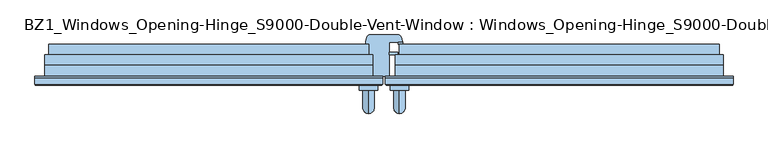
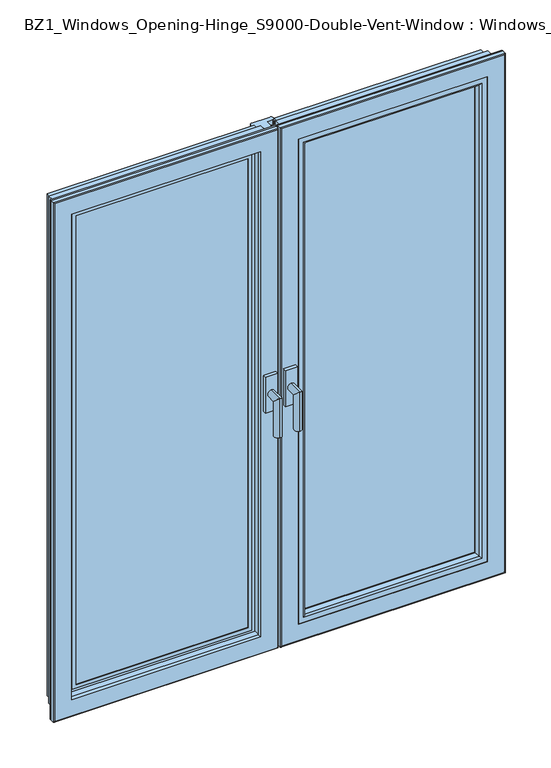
"""IFC4 building model written with IfcOpenShell, lengths in millimetres: window geometry, BZ1_Windows_Opening-Hinge_S9000-Double-Vent-Window : Windows_Opening-Hinge_S9000-Double-Vent-Window."""

from ifc_helpers import new_model, si_unit, point, frame, frame_2d, origin, place, context, project, spatial, polyline, circle_curve, ellipse_curve, trimmed, segment, composite_curve, outline, extrude, source, transform, mapped, element, save
from ifc_brep_helpers import plane_surface, cylinder_surface, advanced_brep


def bz1_windows_opening_hinge_s9000_double_vent_window_windows_b4b88814(model_context):
    return source(origin(), model_context, "Body", "SolidModel", [
        advanced_brep(
        [(31.0, -61.0, 1781.5), (31.0, -61.0, 1758.5), (31.0, -107.5, 1781.5), (31.0, -84.5, 1758.5), (31.0, -107.5, 1653.0), (31.0, -84.5, 1653.0)],
        [
            (0, 1, circle_curve(frame((31.0, -61.0, 1770.0), z_axis=(0.0, 1.0, 0.0), x_axis=(0.0, 0.0, -1.0)), 11.5)),
            (1, 0, circle_curve(frame((31.0, -61.0, 1770.0), z_axis=(0.0, 1.0, 0.0), x_axis=(0.0, 0.0, -1.0)), 11.5)),
            (0, 2),
            (2, 3, ellipse_curve(frame((31.0, -96.0, 1770.0), z_axis=(0.0, 0.7071067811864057, 0.7071067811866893), x_axis=(0.0, 0.7071067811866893, -0.7071067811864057)), 16.263456, 11.5)),
            (3, 1),
            (3, 2, ellipse_curve(frame((31.0, -96.0, 1770.0), z_axis=(0.0, 0.7071067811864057, 0.7071067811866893), x_axis=(0.0, 0.7071067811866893, -0.7071067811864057)), 16.263456, 11.5)),
            (4, 5, circle_curve(frame((31.0, -96.0, 1653.0), z_axis=(0.0, 0.0, -1.0), x_axis=(0.0, 1.0, 0.0)), 11.5)),
            (5, 4, circle_curve(frame((31.0, -96.0, 1653.0), z_axis=(0.0, 0.0, -1.0), x_axis=(0.0, 1.0, 0.0)), 11.5)),
            (2, 4),
            (5, 3),
        ],
        [
            plane_surface(frame((31.0, -61.0, 1770.0), z_axis=(0.0, 1.0, 0.0), x_axis=(1.0, 0.0, 0.0))),
            cylinder_surface(frame((31.0, -61.0, 1770.0), z_axis=(0.0, 1.0, 0.0), x_axis=(0.0, 0.0, -1.0)), 11.5),
            plane_surface(frame((31.0, -96.0, 1653.0), z_axis=(0.0, 0.0, -1.0), x_axis=(1.0, 0.0, 0.0))),
            cylinder_surface(frame((31.0, -96.0, 1770.0), z_axis=(0.0, 0.0, 1.0), x_axis=(0.0, 1.0, 0.0)), 11.5),
        ],
        [
            (0, [[1, 2]]),
            (1, [[-1, 3, 4, 5]]),
            (1, [[-2, -5, 6, -3]]),
            (2, [[7, 8]]),
            (3, [[-4, 9, -8, 10]]),
            (3, [[-6, -10, -7, -9]]),
        ],
    ),
        extrude(outline(polyline([(49.5, -51.0), (49.5, -61.0), (12.5, -61.0), (12.5, -51.0), (49.5, -51.0)])), frame((0.0, 0.0, 1711.0), z_axis=(0.0, 0.0, 1.0), x_axis=(1.0, 0.0, 0.0)), (0.0, 0.0, 1.0), 118.0),
        advanced_brep(
        [(-31.0, -61.0, 1781.5), (-31.0, -61.0, 1758.5), (-31.0, -107.5, 1781.5), (-31.0, -84.5, 1758.5), (-31.0, -107.5, 1653.0), (-31.0, -84.5, 1653.0)],
        [
            (0, 1, circle_curve(frame((-31.0, -61.0, 1770.0), z_axis=(0.0, 1.0, 0.0), x_axis=(0.0, 0.0, -1.0)), 11.5)),
            (1, 0, circle_curve(frame((-31.0, -61.0, 1770.0), z_axis=(0.0, 1.0, 0.0), x_axis=(0.0, 0.0, -1.0)), 11.5)),
            (0, 2),
            (2, 3, ellipse_curve(frame((-31.0, -96.0, 1770.0), z_axis=(0.0, 0.7071067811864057, 0.7071067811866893), x_axis=(0.0, 0.7071067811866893, -0.7071067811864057)), 16.263456, 11.5)),
            (3, 1),
            (3, 2, ellipse_curve(frame((-31.0, -96.0, 1770.0), z_axis=(0.0, 0.7071067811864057, 0.7071067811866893), x_axis=(0.0, 0.7071067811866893, -0.7071067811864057)), 16.263456, 11.5)),
            (4, 5, circle_curve(frame((-31.0, -96.0, 1653.0), z_axis=(0.0, 0.0, -1.0), x_axis=(0.0, 1.0, 0.0)), 11.5)),
            (5, 4, circle_curve(frame((-31.0, -96.0, 1653.0), z_axis=(0.0, 0.0, -1.0), x_axis=(0.0, 1.0, 0.0)), 11.5)),
            (2, 4),
            (5, 3),
        ],
        [
            plane_surface(frame((-31.0, -61.0, 1770.0), z_axis=(0.0, 1.0, 0.0), x_axis=(1.0, 0.0, 0.0))),
            cylinder_surface(frame((-31.0, -61.0, 1770.0), z_axis=(0.0, 1.0, 0.0), x_axis=(0.0, 0.0, -1.0)), 11.5),
            plane_surface(frame((-31.0, -96.0, 1653.0), z_axis=(0.0, 0.0, -1.0), x_axis=(1.0, 0.0, 0.0))),
            cylinder_surface(frame((-31.0, -96.0, 1770.0), z_axis=(0.0, 0.0, 1.0), x_axis=(0.0, 1.0, 0.0)), 11.5),
        ],
        [
            (0, [[1, 2]]),
            (1, [[-1, 3, 4, 5]]),
            (1, [[-2, -5, 6, -3]]),
            (2, [[7, 8]]),
            (3, [[-4, 9, -8, 10]]),
            (3, [[-6, -10, -7, -9]]),
        ],
    ),
        extrude(outline(polyline([(-12.5, -51.0), (-12.5, -61.0), (-49.5, -61.0), (-49.5, -51.0), (-12.5, -51.0)])), frame((0.0, 0.0, 1711.0), z_axis=(0.0, 0.0, 1.0), x_axis=(1.0, 0.0, 0.0)), (0.0, 0.0, 1.0), 118.0),
        extrude(outline(polyline([(64.0, 13.5), (639.0, 13.5), (639.0, -26.5), (64.0, -26.5), (64.0, 13.5)])), frame((0.0, 0.0, 980.9999996), z_axis=(0.0, 0.0, 1.0), x_axis=(1.0, 0.0, 0.0)), (0.0, 0.0, 1.0), 1578.0),
        extrude(outline(polyline([(994.7999996, 77.8), (994.7999996, 625.2), (2545.1999996, 625.2), (2545.1999996, 77.8), (994.7999996, 77.8)]), holes=[polyline([(2537.9999996, 85.0), (2537.9999996, 618.0), (1001.9999996, 618.0), (1001.9999996, 85.0), (2537.9999996, 85.0)])]), frame((0.0, 13.5, 0.0), z_axis=(0.0, 1.0, 0.0), x_axis=(0.0, 0.0, 1.0)), (0.0, 0.0, 1.0), 3.0),
        extrude(outline(polyline([(990.4987824, 629.5012172), (2549.5012168, 629.5012172), (2549.5012168, 73.4987828), (990.4987824, 73.4987828), (990.4987824, 629.5012172)]), holes=[polyline([(1001.9987824, 84.9987828), (2538.0012168, 84.9987828), (2538.0012168, 618.0012172), (1001.9987824, 618.0012172), (1001.9987824, 84.9987828)])]), frame((0.0, -29.0, 0.0), z_axis=(0.0, 1.0, 0.0), x_axis=(0.0, 0.0, 1.0)), (0.0, 0.0, 1.0), 2.5),
        extrude(outline(polyline([(919.9999996, 3.0), (919.9999996, 700.0), (2619.9999996, 700.0), (2619.9999996, 3.0), (919.9999996, 3.0)]), holes=[polyline([(2611.9999996, 11.0), (2611.9999996, 692.0), (927.9999996, 692.0), (927.9999996, 11.0), (2611.9999996, 11.0)])]), frame((0.0, -36.0, 0.0), z_axis=(0.0, 1.0, 0.0), x_axis=(0.0, 0.0, 1.0)), (0.0, 0.0, 1.0), 3.5),
        advanced_brep(
        [(76.6543275, 31.5, 2546.3456721), (82.4498824, 27.0529143, 2540.5501171), (82.4498824, 27.0529143, 999.449882), (76.6543275, 31.5, 993.6543271), (31.0, 10.0, 2591.9999996), (31.0, 31.5, 2591.9999996), (31.0, 31.5, 947.9999996), (31.0, 10.0, 947.9999996), (23.0, -10.0, 2599.9999996), (23.0, 10.0, 2599.9999996), (23.0, 10.0, 939.9999996), (23.0, -10.0, 939.9999996), (54.9, 2.4998794, 2568.0999996), (54.9, -10.0, 2568.0999996), (54.9, -10.0, 971.8999996), (54.9, 2.4998794, 971.8999996), (51.9241825, 16.5, 2571.0758171), (51.9241825, 16.5, 968.9241821), (85.0, 17.535746, 2537.9999996), (85.0, 16.5, 2537.9999996), (85.0, 16.5, 1001.9999996), (85.0, 17.535746, 1001.9999996), (620.5501176, 27.0529143, 999.449882), (626.3456725, 31.5, 993.6543271), (672.0, 31.5, 947.9999996), (672.0, 10.0, 947.9999996), (680.0, 10.0, 939.9999996), (680.0, -10.0, 939.9999996), (648.1, -10.0, 971.8999996), (648.1, 2.4998794, 971.8999996), (651.0758175, 16.5, 968.9241821), (618.0, 16.5, 1001.9999996), (618.0, 17.535746, 1001.9999996), (620.5501176, 27.0529143, 2540.5501171), (626.3456725, 31.5, 2546.3456721), (672.0, 31.5, 2591.9999996), (672.0, 10.0, 2591.9999996), (680.0, 10.0, 2599.9999996), (680.0, -10.0, 2599.9999996), (648.1, -10.0, 2568.0999996), (648.1, 2.4998794, 2568.0999996), (651.0758175, 16.5, 2571.0758171), (618.0, 16.5, 2537.9999996), (618.0, 17.535746, 2537.9999996)],
        [
            (0, 1, ellipse_curve(frame((76.6543275, 25.5, 2546.3456721), z_axis=(-0.7071067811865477, 0.0, -0.7071067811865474), x_axis=(-0.7071067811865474, 0.0, 0.7071067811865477)), 8.4852814, 6.0)),
            (1, 2),
            (2, 3, ellipse_curve(frame((76.6543275, 25.5, 993.6543271), z_axis=(-0.7071067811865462, 0.0, 0.707106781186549), x_axis=(0.7071067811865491, 0.0, 0.7071067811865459)), 8.4852814, 6.0)),
            (3, 0),
            (4, 5),
            (5, 6),
            (6, 7),
            (7, 4),
            (8, 9),
            (9, 10),
            (10, 11),
            (11, 8),
            (12, 13),
            (13, 14),
            (14, 15),
            (15, 12),
            (16, 12),
            (15, 17),
            (17, 16),
            (18, 19),
            (19, 20),
            (20, 21),
            (21, 18),
            (1, 18),
            (21, 2),
            (2, 22),
            (22, 23, ellipse_curve(frame((626.3456725, 25.5, 993.6543271), z_axis=(-0.7071067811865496, 0.0, -0.7071067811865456), x_axis=(-0.7071067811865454, 0.0, 0.7071067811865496)), 8.4852814, 6.0)),
            (23, 3),
            (6, 24),
            (24, 25),
            (25, 7),
            (10, 26),
            (26, 27),
            (27, 11),
            (14, 28),
            (28, 29),
            (29, 15),
            (29, 30),
            (30, 17),
            (20, 31),
            (31, 32),
            (32, 21),
            (32, 22),
            (22, 33),
            (33, 34, ellipse_curve(frame((626.3456725, 25.5, 2546.3456721), z_axis=(0.7071067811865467, 0.0, -0.7071067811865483), x_axis=(-0.7071067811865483, 0.0, -0.7071067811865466)), 8.4852814, 6.0)),
            (34, 23),
            (24, 35),
            (35, 36),
            (36, 25),
            (26, 37),
            (37, 38),
            (38, 27),
            (28, 39),
            (39, 40),
            (40, 29),
            (40, 41),
            (41, 30),
            (31, 42),
            (42, 43),
            (43, 32),
            (43, 33),
            (33, 1),
            (0, 34),
            (5, 35),
            (4, 36),
            (9, 37),
            (8, 38),
            (13, 39),
            (12, 40),
            (16, 41),
            (19, 42),
            (18, 43),
        ],
        [
            cylinder_surface(frame((76.6543275, 25.5, 2619.9999996), z_axis=(0.0, 0.0, 1.0), x_axis=(0.0, 1.0, 0.0)), 6.0),
            plane_surface(frame((31.0, 31.5, 2591.9999996), z_axis=(-1.0, 0.0, 0.0), x_axis=(0.0, 0.0, -1.0))),
            plane_surface(frame((23.0, 10.0, 2599.9999996), z_axis=(-1.0, 0.0, 0.0), x_axis=(0.0, 0.0, -1.0))),
            plane_surface(frame((54.9, -10.0, 2568.0999996), z_axis=(1.0, 0.0, 0.0), x_axis=(0.0, 0.0, -1.0))),
            plane_surface(frame((54.9, 2.4998794, 2568.0999996), z_axis=(0.9781476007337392, 0.20791169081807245, 0.0), x_axis=(0.0, 0.0, -1.0))),
            plane_surface(frame((85.0, 16.5, 2537.9999996), z_axis=(1.0, 0.0, 0.0), x_axis=(0.0, 0.0, -1.0))),
            plane_surface(frame((85.0, 17.535746, 2537.9999996), z_axis=(0.9659258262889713, 0.2588190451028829, 0.0), x_axis=(0.0, 0.0, -1.0))),
            cylinder_surface(frame((3.0, 25.5, 993.6543271), z_axis=(-1.0, 0.0, 0.0), x_axis=(0.0, 1.0, 0.0)), 6.0),
            plane_surface(frame((31.0, 31.5, 947.9999996), z_axis=(0.0, 0.0, -1.0), x_axis=(1.0, 0.0, 0.0))),
            plane_surface(frame((23.0, 10.0, 939.9999996), z_axis=(0.0, 0.0, -1.0), x_axis=(1.0, 0.0, 0.0))),
            plane_surface(frame((54.9, -10.0, 971.8999996), z_axis=(0.0, 0.0, 1.0), x_axis=(1.0, 0.0, 0.0))),
            plane_surface(frame((54.9, 2.4998794, 971.8999996), z_axis=(0.0, 0.20791169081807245, 0.9781476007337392), x_axis=(1.0, 0.0, 0.0))),
            plane_surface(frame((85.0, 16.5, 1001.9999996), z_axis=(0.0, 0.0, 1.0), x_axis=(1.0, 0.0, 0.0))),
            plane_surface(frame((85.0, 17.535746, 1001.9999996), z_axis=(0.0, 0.2588190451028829, 0.9659258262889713), x_axis=(1.0, 0.0, 0.0))),
            cylinder_surface(frame((626.3456725, 25.5, 919.9999996), z_axis=(0.0, 0.0, -1.0), x_axis=(0.0, 1.0, 0.0)), 6.0),
            plane_surface(frame((672.0, 31.5, 947.9999996), z_axis=(1.0, 0.0, 0.0), x_axis=(0.0, 0.0, 1.0))),
            plane_surface(frame((680.0, 10.0, 939.9999996), z_axis=(1.0, 0.0, 0.0), x_axis=(0.0, 0.0, 1.0))),
            plane_surface(frame((648.1, -10.0, 971.8999996), z_axis=(-1.0, 0.0, 0.0), x_axis=(0.0, 0.0, 1.0))),
            plane_surface(frame((648.1, 2.4998794, 971.8999996), z_axis=(-0.9781476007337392, 0.20791169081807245, 0.0), x_axis=(0.0, 0.0, 1.0))),
            plane_surface(frame((618.0, 16.5, 1001.9999996), z_axis=(-1.0, 0.0, 0.0), x_axis=(0.0, 0.0, 1.0))),
            plane_surface(frame((618.0, 17.535746, 1001.9999996), z_axis=(-0.9659258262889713, 0.2588190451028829, 0.0), x_axis=(0.0, 0.0, 1.0))),
            cylinder_surface(frame((700.0, 25.5, 2546.3456721), z_axis=(1.0, 0.0, 0.0), x_axis=(0.0, 1.0, 0.0)), 6.0),
            plane_surface(frame((626.3456725, 31.5, 2546.3456721), z_axis=(0.0, 1.0, 0.0), x_axis=(-1.0, 0.0, 0.0))),
            plane_surface(frame((672.0, 31.5, 2591.9999996), z_axis=(0.0, 0.0, 1.0), x_axis=(-1.0, 0.0, 0.0))),
            plane_surface(frame((672.0, 10.0, 2591.9999996), z_axis=(0.0, 1.0, 0.0), x_axis=(-1.0, 0.0, 0.0))),
            plane_surface(frame((680.0, 10.0, 2599.9999996), z_axis=(0.0, 0.0, 1.0), x_axis=(-1.0, 0.0, 0.0))),
            plane_surface(frame((680.0, -10.0, 2599.9999996), z_axis=(0.0, -1.0, 0.0), x_axis=(-1.0, 0.0, 0.0))),
            plane_surface(frame((648.1, -10.0, 2568.0999996), z_axis=(0.0, 0.0, -1.0), x_axis=(-1.0, 0.0, 0.0))),
            plane_surface(frame((648.1, 2.4998794, 2568.0999996), z_axis=(0.0, 0.20791169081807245, -0.9781476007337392), x_axis=(-1.0, 0.0, 0.0))),
            plane_surface(frame((619.0, 16.5, 2538.9999996), z_axis=(0.0, -1.0, 0.0), x_axis=(-1.0, 0.0, 0.0))),
            plane_surface(frame((618.0, 16.5, 2537.9999996), z_axis=(0.0, 0.0, -1.0), x_axis=(-1.0, 0.0, 0.0))),
            plane_surface(frame((618.0, 17.535746, 2537.9999996), z_axis=(0.0, 0.2588190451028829, -0.9659258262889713), x_axis=(-1.0, 0.0, 0.0))),
        ],
        [
            (0, [[1, 2, 3, 4]]),
            (1, [[5, 6, 7, 8]]),
            (2, [[9, 10, 11, 12]]),
            (3, [[13, 14, 15, 16]]),
            (4, [[17, -16, 18, 19]]),
            (5, [[20, 21, 22, 23]]),
            (6, [[24, -23, 25, -2]]),
            (7, [[-3, 26, 27, 28]]),
            (8, [[-7, 29, 30, 31]]),
            (9, [[-11, 32, 33, 34]]),
            (10, [[-15, 35, 36, 37]]),
            (11, [[-18, -37, 38, 39]]),
            (12, [[-22, 40, 41, 42]]),
            (13, [[-25, -42, 43, -26]]),
            (14, [[-27, 44, 45, 46]]),
            (15, [[-30, 47, 48, 49]]),
            (16, [[-33, 50, 51, 52]]),
            (17, [[-36, 53, 54, 55]]),
            (18, [[-38, -55, 56, 57]]),
            (19, [[-41, 58, 59, 60]]),
            (20, [[-43, -60, 61, -44]]),
            (21, [[-45, 62, -1, 63]]),
            (22, [[64, -47, -29, -6], [-28, -46, -63, -4]]),
            (23, [[-48, -64, -5, 65]]),
            (24, [[66, -50, -32, -10], [-31, -49, -65, -8]]),
            (25, [[-51, -66, -9, 67]]),
            (26, [[-34, -52, -67, -12], [68, -53, -35, -14]]),
            (27, [[-54, -68, -13, 69]]),
            (28, [[-56, -69, -17, 70]]),
            (29, [[-39, -57, -70, -19], [71, -58, -40, -21]]),
            (30, [[-59, -71, -20, 72]]),
            (31, [[-61, -72, -24, -62]]),
        ],
    ),
        advanced_brep(
        [(59.0, -39.75, 2563.9999996), (59.0, -51.0, 2563.9999996), (59.0, -51.0, 975.9999996), (59.0, -39.75, 975.9999996), (54.9, -10.0, 2568.0999996), (54.9, -39.75, 2568.0999996), (54.9, -39.75, 971.8999996), (54.9, -10.0, 971.8999996), (23.0, -36.0, 2599.9999996), (23.0, -10.0, 2599.9999996), (23.0, -10.0, 939.9999996), (23.0, -36.0, 939.9999996), (3.0, -48.5, 2619.9999996), (3.0, -36.0, 2619.9999996), (3.0, -36.0, 919.9999996), (3.0, -48.5, 919.9999996), (5.5, -51.0, 2617.4999996), (5.5, -51.0, 922.4999996), (644.0, -51.0, 975.9999996), (644.0, -39.75, 975.9999996), (648.1, -39.75, 971.8999996), (648.1, -10.0, 971.8999996), (680.0, -10.0, 939.9999996), (680.0, -36.0, 939.9999996), (700.0, -36.0, 919.9999996), (700.0, -48.5, 919.9999996), (697.5, -51.0, 922.4999996), (644.0, -51.0, 2563.9999996), (644.0, -39.75, 2563.9999996), (648.1, -39.75, 2568.0999996), (648.1, -10.0, 2568.0999996), (680.0, -10.0, 2599.9999996), (680.0, -36.0, 2599.9999996), (700.0, -36.0, 2619.9999996), (700.0, -48.5, 2619.9999996), (697.5, -51.0, 2617.4999996)],
        [
            (0, 1),
            (1, 2),
            (2, 3),
            (3, 0),
            (4, 5),
            (5, 6),
            (6, 7),
            (7, 4),
            (8, 9),
            (9, 10),
            (10, 11),
            (11, 8),
            (12, 13),
            (13, 14),
            (14, 15),
            (15, 12),
            (16, 12, ellipse_curve(frame((5.5, -48.5, 2617.4999996), z_axis=(-0.7071067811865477, 0.0, -0.7071067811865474), x_axis=(-0.7071067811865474, 0.0, 0.7071067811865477)), 3.5355339, 2.5)),
            (15, 17, ellipse_curve(frame((5.5, -48.5, 922.4999996), z_axis=(-0.7071067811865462, 0.0, 0.707106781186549), x_axis=(0.7071067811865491, 0.0, 0.7071067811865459)), 3.5355339, 2.5)),
            (17, 16),
            (2, 18),
            (18, 19),
            (19, 3),
            (6, 20),
            (20, 21),
            (21, 7),
            (10, 22),
            (22, 23),
            (23, 11),
            (14, 24),
            (24, 25),
            (25, 15),
            (25, 26, ellipse_curve(frame((697.5, -48.5, 922.4999996), z_axis=(-0.7071067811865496, 0.0, -0.7071067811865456), x_axis=(-0.7071067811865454, 0.0, 0.7071067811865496)), 3.5355339, 2.5)),
            (26, 17),
            (18, 27),
            (27, 28),
            (28, 19),
            (20, 29),
            (29, 30),
            (30, 21),
            (22, 31),
            (31, 32),
            (32, 23),
            (24, 33),
            (33, 34),
            (34, 25),
            (34, 35, ellipse_curve(frame((697.5, -48.5, 2617.4999996), z_axis=(0.7071067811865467, 0.0, -0.7071067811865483), x_axis=(-0.7071067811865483, 0.0, -0.7071067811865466)), 3.5355339, 2.5)),
            (35, 26),
            (35, 16),
            (1, 27),
            (0, 28),
            (5, 29),
            (4, 30),
            (9, 31),
            (8, 32),
            (13, 33),
            (12, 34),
        ],
        [
            plane_surface(frame((59.0, -51.0, 2563.9999996), z_axis=(1.0, 0.0, 0.0), x_axis=(0.0, 0.0, -1.0))),
            plane_surface(frame((54.9, -39.75, 2568.0999996), z_axis=(1.0, 0.0, 0.0), x_axis=(0.0, 0.0, -1.0))),
            plane_surface(frame((23.0, -10.0, 2599.9999996), z_axis=(-1.0, 0.0, 0.0), x_axis=(0.0, 0.0, -1.0))),
            plane_surface(frame((3.0, -36.0, 2619.9999996), z_axis=(-1.0, 0.0, 0.0), x_axis=(0.0, 0.0, -1.0))),
            cylinder_surface(frame((5.5, -48.5, 2619.9999996), z_axis=(0.0, 0.0, 1.0), x_axis=(0.0, -1.0, 0.0)), 2.5),
            plane_surface(frame((59.0, -51.0, 975.9999996), z_axis=(0.0, 0.0, 1.0), x_axis=(1.0, 0.0, 0.0))),
            plane_surface(frame((54.9, -39.75, 971.8999996), z_axis=(0.0, 0.0, 1.0), x_axis=(1.0, 0.0, 0.0))),
            plane_surface(frame((23.0, -10.0, 939.9999996), z_axis=(0.0, 0.0, -1.0), x_axis=(1.0, 0.0, 0.0))),
            plane_surface(frame((3.0, -36.0, 919.9999996), z_axis=(0.0, 0.0, -1.0), x_axis=(1.0, 0.0, 0.0))),
            cylinder_surface(frame((3.0, -48.5, 922.4999996), z_axis=(-1.0, 0.0, 0.0), x_axis=(0.0, -1.0, 0.0)), 2.5),
            plane_surface(frame((644.0, -51.0, 975.9999996), z_axis=(-1.0, 0.0, 0.0), x_axis=(0.0, 0.0, 1.0))),
            plane_surface(frame((648.1, -39.75, 971.8999996), z_axis=(-1.0, 0.0, 0.0), x_axis=(0.0, 0.0, 1.0))),
            plane_surface(frame((680.0, -10.0, 939.9999996), z_axis=(1.0, 0.0, 0.0), x_axis=(0.0, 0.0, 1.0))),
            plane_surface(frame((700.0, -36.0, 919.9999996), z_axis=(1.0, 0.0, 0.0), x_axis=(0.0, 0.0, 1.0))),
            cylinder_surface(frame((697.5, -48.5, 919.9999996), z_axis=(0.0, 0.0, -1.0), x_axis=(0.0, -1.0, 0.0)), 2.5),
            plane_surface(frame((697.5, -51.0, 2617.4999996), z_axis=(0.0, -1.0, 0.0), x_axis=(-1.0, 0.0, 0.0))),
            plane_surface(frame((644.0, -51.0, 2563.9999996), z_axis=(0.0, 0.0, -1.0), x_axis=(-1.0, 0.0, 0.0))),
            plane_surface(frame((644.0, -39.75, 2563.9999996), z_axis=(0.0, 1.0, 0.0), x_axis=(-1.0, 0.0, 0.0))),
            plane_surface(frame((648.1, -39.75, 2568.0999996), z_axis=(0.0, 0.0, -1.0), x_axis=(-1.0, 0.0, 0.0))),
            plane_surface(frame((648.1, -10.0, 2568.0999996), z_axis=(0.0, 1.0, 0.0), x_axis=(-1.0, 0.0, 0.0))),
            plane_surface(frame((680.0, -10.0, 2599.9999996), z_axis=(0.0, 0.0, 1.0), x_axis=(-1.0, 0.0, 0.0))),
            plane_surface(frame((699.0, -36.0, 2618.9999996), z_axis=(0.0, 1.0, 0.0), x_axis=(-1.0, 0.0, 0.0))),
            plane_surface(frame((700.0, -36.0, 2619.9999996), z_axis=(0.0, 0.0, 1.0), x_axis=(-1.0, 0.0, 0.0))),
            cylinder_surface(frame((700.0, -48.5, 2617.4999996), z_axis=(1.0, 0.0, 0.0), x_axis=(0.0, -1.0, 0.0)), 2.5),
        ],
        [
            (0, [[1, 2, 3, 4]]),
            (1, [[5, 6, 7, 8]]),
            (2, [[9, 10, 11, 12]]),
            (3, [[13, 14, 15, 16]]),
            (4, [[17, -16, 18, 19]]),
            (5, [[-3, 20, 21, 22]]),
            (6, [[-7, 23, 24, 25]]),
            (7, [[-11, 26, 27, 28]]),
            (8, [[-15, 29, 30, 31]]),
            (9, [[-18, -31, 32, 33]]),
            (10, [[-21, 34, 35, 36]]),
            (11, [[-24, 37, 38, 39]]),
            (12, [[-27, 40, 41, 42]]),
            (13, [[-30, 43, 44, 45]]),
            (14, [[-32, -45, 46, 47]]),
            (15, [[-33, -47, 48, -19], [49, -34, -20, -2]]),
            (16, [[-35, -49, -1, 50]]),
            (17, [[51, -37, -23, -6], [-22, -36, -50, -4]]),
            (18, [[-38, -51, -5, 52]]),
            (19, [[53, -40, -26, -10], [-25, -39, -52, -8]]),
            (20, [[-41, -53, -9, 54]]),
            (21, [[55, -43, -29, -14], [-28, -42, -54, -12]]),
            (22, [[-44, -55, -13, 56]]),
            (23, [[-46, -56, -17, -48]]),
        ],
    ),
        advanced_brep(
        [(81.1040168, -45.0529143, 2541.8959828), (75.3084619, -49.5, 2547.6915377), (75.3084619, -49.5, 992.3084614), (81.1040168, -45.0529143, 998.1040164), (84.9987828, -30.5174497, 2538.0012168), (84.9987828, -30.5174497, 1001.9987824), (84.9987828, -29.0, 2538.0012168), (84.9987828, -29.0, 1001.9987824), (71.8567747, -34.0, 2551.1432248), (73.1965207, -29.0, 2549.8034789), (73.1965207, -29.0, 990.1965203), (71.8567747, -34.0, 988.8567743), (59.0, -34.0, 2563.9999996), (59.0, -34.0, 975.9999996), (59.0, -49.5, 975.9999996), (59.0, -49.5, 2563.9999996), (627.6915381, -49.5, 992.3084614), (621.8959832, -45.0529143, 998.1040164), (618.0012172, -30.5174497, 1001.9987824), (618.0012172, -29.0, 1001.9987824), (629.8034793, -29.0, 990.1965203), (631.1432253, -34.0, 988.8567743), (644.0, -34.0, 975.9999996), (644.0, -49.5, 975.9999996), (627.6915381, -49.5, 2547.6915377), (621.8959832, -45.0529143, 2541.8959828), (618.0012172, -30.5174497, 2538.0012168), (618.0012172, -29.0, 2538.0012168), (629.8034793, -29.0, 2549.8034789), (631.1432253, -34.0, 2551.1432248), (644.0, -34.0, 2563.9999996), (644.0, -49.5, 2563.9999996)],
        [
            (0, 1, ellipse_curve(frame((75.3084619, -43.5, 2547.6915377), z_axis=(-0.7071067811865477, 0.0, -0.7071067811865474), x_axis=(-0.7071067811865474, 0.0, 0.7071067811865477)), 8.4852814, 6.0)),
            (1, 2),
            (2, 3, ellipse_curve(frame((75.3084619, -43.5, 992.3084614), z_axis=(-0.7071067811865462, 0.0, 0.707106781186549), x_axis=(0.7071067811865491, 0.0, 0.7071067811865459)), 8.4852814, 6.0)),
            (3, 0),
            (4, 0),
            (3, 5),
            (5, 4),
            (6, 4),
            (5, 7),
            (7, 6),
            (8, 9),
            (9, 10),
            (10, 11),
            (11, 8),
            (12, 13),
            (13, 14),
            (14, 15),
            (15, 12),
            (2, 16),
            (16, 17, ellipse_curve(frame((627.6915381, -43.5, 992.3084614), z_axis=(-0.7071067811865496, 0.0, -0.7071067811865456), x_axis=(-0.7071067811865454, 0.0, 0.7071067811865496)), 8.4852814, 6.0)),
            (17, 3),
            (17, 18),
            (18, 5),
            (18, 19),
            (19, 7),
            (10, 20),
            (20, 21),
            (21, 11),
            (13, 22),
            (22, 23),
            (23, 14),
            (16, 24),
            (24, 25, ellipse_curve(frame((627.6915381, -43.5, 2547.6915377), z_axis=(0.7071067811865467, 0.0, -0.7071067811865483), x_axis=(-0.7071067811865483, 0.0, -0.7071067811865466)), 8.4852814, 6.0)),
            (25, 17),
            (25, 26),
            (26, 18),
            (26, 27),
            (27, 19),
            (20, 28),
            (28, 29),
            (29, 21),
            (22, 30),
            (30, 31),
            (31, 23),
            (24, 1),
            (0, 25),
            (4, 26),
            (6, 27),
            (9, 28),
            (8, 29),
            (12, 30),
            (15, 31),
        ],
        [
            cylinder_surface(frame((75.3084619, -43.5, 2619.9999996), z_axis=(0.0, 0.0, 1.0), x_axis=(0.9659258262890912, -0.2588190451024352, 0.0)), 6.0),
            plane_surface(frame((81.1040168, -45.0529143, 2541.8959828), z_axis=(0.9659258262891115, -0.25881904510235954, 0.0), x_axis=(0.0, 0.0, -1.0))),
            plane_surface(frame((84.9987828, -30.5174497, 2538.0012168), z_axis=(1.0, 0.0, 0.0), x_axis=(0.0, 0.0, -1.0))),
            plane_surface(frame((73.1965207, -29.0, 2549.8034789), z_axis=(-0.9659258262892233, 0.2588190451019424, 0.0), x_axis=(0.0, 0.0, -1.0))),
            plane_surface(frame((59.0, -48.5, 2563.9999996), z_axis=(-1.0, 0.0, 0.0), x_axis=(0.0, 0.0, -1.0))),
            cylinder_surface(frame((3.0, -43.5, 992.3084614), z_axis=(-1.0, 0.0, 0.0), x_axis=(0.0, -0.2588190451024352, 0.9659258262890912)), 6.0),
            plane_surface(frame((81.1040168, -45.0529143, 998.1040164), z_axis=(0.0, -0.25881904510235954, 0.9659258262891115), x_axis=(1.0, 0.0, 0.0))),
            plane_surface(frame((84.9987828, -30.5174497, 1001.9987824), z_axis=(0.0, 0.0, 1.0), x_axis=(1.0, 0.0, 0.0))),
            plane_surface(frame((73.1965207, -29.0, 990.1965203), z_axis=(0.0, 0.2588190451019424, -0.9659258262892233), x_axis=(1.0, 0.0, 0.0))),
            plane_surface(frame((59.0, -48.5, 975.9999996), z_axis=(0.0, 0.0, -1.0), x_axis=(1.0, 0.0, 0.0))),
            cylinder_surface(frame((627.6915381, -43.5, 919.9999996), z_axis=(0.0, 0.0, -1.0), x_axis=(-0.9659258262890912, -0.2588190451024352, 0.0)), 6.0),
            plane_surface(frame((621.8959832, -45.0529143, 998.1040164), z_axis=(-0.9659258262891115, -0.25881904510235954, 0.0), x_axis=(0.0, 0.0, 1.0))),
            plane_surface(frame((618.0012172, -30.5174497, 1001.9987824), z_axis=(-1.0, 0.0, 0.0), x_axis=(0.0, 0.0, 1.0))),
            plane_surface(frame((629.8034793, -29.0, 990.1965203), z_axis=(0.9659258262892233, 0.2588190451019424, 0.0), x_axis=(0.0, 0.0, 1.0))),
            plane_surface(frame((644.0, -48.5, 975.9999996), z_axis=(1.0, 0.0, 0.0), x_axis=(0.0, 0.0, 1.0))),
            cylinder_surface(frame((700.0, -43.5, 2547.6915377), z_axis=(1.0, 0.0, 0.0), x_axis=(0.0, -0.2588190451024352, -0.9659258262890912)), 6.0),
            plane_surface(frame((621.8959832, -45.0529143, 2541.8959828), z_axis=(0.0, -0.25881904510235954, -0.9659258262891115), x_axis=(-1.0, 0.0, 0.0))),
            plane_surface(frame((618.0012172, -30.5174497, 2538.0012168), z_axis=(0.0, 0.0, -1.0), x_axis=(-1.0, 0.0, 0.0))),
            plane_surface(frame((618.0012172, -29.0, 2538.0012168), z_axis=(0.0, 1.0, 0.0), x_axis=(-1.0, 0.0, 0.0))),
            plane_surface(frame((629.8034793, -29.0, 2549.8034789), z_axis=(0.0, 0.2588190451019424, 0.9659258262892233), x_axis=(-1.0, 0.0, 0.0))),
            plane_surface(frame((631.1432253, -34.0, 2551.1432248), z_axis=(0.0, 1.0, 0.0), x_axis=(-1.0, 0.0, 0.0))),
            plane_surface(frame((644.0, -48.5, 2563.9999996), z_axis=(0.0, 0.0, 1.0), x_axis=(-1.0, 0.0, 0.0))),
            plane_surface(frame((644.0, -49.5, 2563.9999996), z_axis=(0.0, -1.0, 0.0), x_axis=(-1.0, 0.0, 0.0))),
        ],
        [
            (0, [[1, 2, 3, 4]]),
            (1, [[5, -4, 6, 7]]),
            (2, [[8, -7, 9, 10]]),
            (3, [[11, 12, 13, 14]]),
            (4, [[15, 16, 17, 18]]),
            (5, [[-3, 19, 20, 21]]),
            (6, [[-6, -21, 22, 23]]),
            (7, [[-9, -23, 24, 25]]),
            (8, [[-13, 26, 27, 28]]),
            (9, [[-16, 29, 30, 31]]),
            (10, [[-20, 32, 33, 34]]),
            (11, [[-22, -34, 35, 36]]),
            (12, [[-24, -36, 37, 38]]),
            (13, [[-27, 39, 40, 41]]),
            (14, [[-30, 42, 43, 44]]),
            (15, [[-33, 45, -1, 46]]),
            (16, [[-35, -46, -5, 47]]),
            (17, [[-37, -47, -8, 48]]),
            (18, [[49, -39, -26, -12], [-25, -38, -48, -10]]),
            (19, [[-40, -49, -11, 50]]),
            (20, [[51, -42, -29, -15], [-28, -41, -50, -14]]),
            (21, [[-43, -51, -18, 52]]),
            (22, [[-31, -44, -52, -17], [-45, -32, -19, -2]]),
        ],
    ),
        extrude(outline(polyline([(-639.0, 13.5), (-64.0, 13.5), (-64.0, -26.5), (-639.0, -26.5), (-639.0, 13.5)])), frame((0.0, 0.0, 980.9999996), z_axis=(0.0, 0.0, 1.0), x_axis=(1.0, 0.0, 0.0)), (0.0, 0.0, 1.0), 1578.0),
        extrude(outline(polyline([(28.0, 15.1), (28.0, 10.0), (11.0, 10.0), (11.0, 15.1), (28.0, 15.1)])), frame((0.0, 0.0, 953.9999996), z_axis=(0.0, 0.0, 1.0), x_axis=(1.0, 0.0, 0.0)), (0.0, 0.0, 1.0), 1632.0),
        extrude(outline(polyline([(28.4784086, 31.5), (28.4784086, 35.0), (37.2784086, 35.0), (37.2784086, 31.5), (28.4784086, 31.5)])), frame((0.0, 0.0, 953.9999996), z_axis=(0.0, 0.0, 1.0), x_axis=(1.0, 0.0, 0.0)), (0.0, 0.0, 1.0), 1632.0),
        extrude(outline(polyline([(994.7999996, -77.8), (2545.1999996, -77.8), (2545.1999996, -625.2), (994.7999996, -625.2), (994.7999996, -77.8)]), holes=[polyline([(1001.9999996, -618.0), (2537.9999996, -618.0), (2537.9999996, -85.0), (1001.9999996, -85.0), (1001.9999996, -618.0)])]), frame((0.0, 13.5, 0.0), z_axis=(0.0, 1.0, 0.0), x_axis=(0.0, 0.0, 1.0)), (0.0, 0.0, 1.0), 3.0),
        extrude(outline(polyline([(919.9999996, -700.0), (919.9999996, -3.0), (2619.9999996, -3.0), (2619.9999996, -700.0), (919.9999996, -700.0)]), holes=[polyline([(2611.9999996, -692.0), (2611.9999996, -11.0), (927.9999996, -11.0), (927.9999996, -692.0), (2611.9999996, -692.0)])]), frame((0.0, -36.0, 0.0), z_axis=(0.0, 1.0, 0.0), x_axis=(0.0, 0.0, 1.0)), (0.0, 0.0, 1.0), 3.5),
        extrude(outline(polyline([(990.4987824, -73.4987828), (2549.5012168, -73.4987828), (2549.5012168, -629.5012172), (990.4987824, -629.5012172), (990.4987824, -73.4987828)]), holes=[polyline([(1001.9987824, -618.0012172), (2538.0012168, -618.0012172), (2538.0012168, -84.9987828), (1001.9987824, -84.9987828), (1001.9987824, -618.0012172)])]), frame((0.0, -29.0, 0.0), z_axis=(0.0, 1.0, 0.0), x_axis=(0.0, 0.0, 1.0)), (0.0, 0.0, 1.0), 2.5),
        extrude(outline(composite_curve([segment(polyline([(-23.0, -32.5), (-23.0, 10.0), (-31.0, 10.0), (-31.0, 31.3910807), (-37.0, 31.3910807), (-37.0, 35.9208678), (-34.436739, 45.5529143)]), True, "CONTINUOUS"), segment(trimmed(circle_curve(frame_2d((-28.6514149, 44.0133354)), 5.9866751), [point((-34.436739, 45.5529143))], [point((-28.6402381, 50.0))], False, "CARTESIAN"), True, "CONTINUOUS"), segment(polyline([(-28.6402381, 50.0), (28.6552087, 50.0)]), True, "CONTINUOUS"), segment(trimmed(circle_curve(frame_2d((28.6552087, 44.0)), 6.0), [point((28.6552087, 50.0))], [point((34.4507637, 45.5529143))], False, "CARTESIAN"), True, "CONTINUOUS"), segment(polyline([(34.4507637, 45.5529143), (37.2784086, 35.0), (11.0, 35.0), (11.0, -32.5), (-23.0, -32.5)]), True, "CONTINUOUS")], self_intersect=False)), frame((0.0, 0.0, 953.9999996), z_axis=(0.0, 0.0, 1.0), x_axis=(1.0, 0.0, 0.0)), (0.0, 0.0, 1.0), 1632.0),
        advanced_brep(
        [(-626.3456725, 31.5, 2546.3456721), (-620.5501176, 27.0529143, 2540.5501171), (-620.5501176, 27.0529143, 999.449882), (-626.3456725, 31.5, 993.6543271), (-672.0, 10.0, 2591.9999996), (-672.0, 31.5, 2591.9999996), (-672.0, 31.5, 947.9999996), (-672.0, 10.0, 947.9999996), (-680.0, -10.0, 2599.9999996), (-680.0, 10.0, 2599.9999996), (-680.0, 10.0, 939.9999996), (-680.0, -10.0, 939.9999996), (-648.1, 2.4998794, 2568.0999996), (-648.1, -10.0, 2568.0999996), (-648.1, -10.0, 971.8999996), (-648.1, 2.4998794, 971.8999996), (-651.0758175, 16.5, 2571.0758171), (-651.0758175, 16.5, 968.9241821), (-618.0, 17.535746, 2537.9999996), (-618.0, 16.5, 2537.9999996), (-618.0, 16.5, 1001.9999996), (-618.0, 17.535746, 1001.9999996), (-82.4498824, 27.0529143, 999.449882), (-76.6543275, 31.5, 993.6543271), (-31.0, 31.5, 947.9999996), (-31.0, 10.0, 947.9999996), (-23.0, 10.0, 939.9999996), (-23.0, -10.0, 939.9999996), (-54.9, -10.0, 971.8999996), (-54.9, 2.4998794, 971.8999996), (-51.9241825, 16.5, 968.9241821), (-85.0, 16.5, 1001.9999996), (-85.0, 17.535746, 1001.9999996), (-82.4498824, 27.0529143, 2540.5501171), (-76.6543275, 31.5, 2546.3456721), (-31.0, 31.5, 2591.9999996), (-31.0, 10.0, 2591.9999996), (-23.0, 10.0, 2599.9999996), (-23.0, -10.0, 2599.9999996), (-54.9, -10.0, 2568.0999996), (-54.9, 2.4998794, 2568.0999996), (-51.9241825, 16.5, 2571.0758171), (-85.0, 16.5, 2537.9999996), (-85.0, 17.535746, 2537.9999996)],
        [
            (0, 1, ellipse_curve(frame((-626.3456725, 25.5, 2546.3456721), z_axis=(-0.707106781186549, 0.0, -0.7071067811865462), x_axis=(-0.7071067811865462, 0.0, 0.7071067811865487)), 8.4852814, 6.0)),
            (1, 2),
            (2, 3, ellipse_curve(frame((-626.3456725, 25.5, 993.6543271), z_axis=(-0.7071067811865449, 0.0, 0.70710678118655), x_axis=(0.7071067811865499, 0.0, 0.707106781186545)), 8.4852814, 6.0)),
            (3, 0),
            (4, 5),
            (5, 6),
            (6, 7),
            (7, 4),
            (8, 9),
            (9, 10),
            (10, 11),
            (11, 8),
            (12, 13),
            (13, 14),
            (14, 15),
            (15, 12),
            (16, 12),
            (15, 17),
            (17, 16),
            (18, 19),
            (19, 20),
            (20, 21),
            (21, 18),
            (1, 18),
            (21, 2),
            (2, 22),
            (22, 23, ellipse_curve(frame((-76.6543275, 25.5, 993.6543271), z_axis=(-0.7071067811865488, 0.0, -0.7071067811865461), x_axis=(-0.7071067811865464, 0.0, 0.7071067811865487)), 8.4852814, 6.0)),
            (23, 3),
            (6, 24),
            (24, 25),
            (25, 7),
            (10, 26),
            (26, 27),
            (27, 11),
            (14, 28),
            (28, 29),
            (29, 15),
            (29, 30),
            (30, 17),
            (20, 31),
            (31, 32),
            (32, 21),
            (32, 22),
            (22, 33),
            (33, 34, ellipse_curve(frame((-76.6543275, 25.5, 2546.3456721), z_axis=(0.7071067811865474, 0.0, -0.7071067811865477), x_axis=(-0.7071067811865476, 0.0, -0.7071067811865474)), 8.4852814, 6.0)),
            (34, 23),
            (24, 35),
            (35, 36),
            (36, 25),
            (26, 37),
            (37, 38),
            (38, 27),
            (28, 39),
            (39, 40),
            (40, 29),
            (40, 41),
            (41, 30),
            (31, 42),
            (42, 43),
            (43, 32),
            (43, 33),
            (33, 1),
            (0, 34),
            (5, 35),
            (4, 36),
            (9, 37),
            (8, 38),
            (13, 39),
            (12, 40),
            (16, 41),
            (19, 42),
            (18, 43),
        ],
        [
            cylinder_surface(frame((-626.3456725, 25.5, 2619.9999996), z_axis=(0.0, 0.0, 1.0), x_axis=(0.0, 1.0, 0.0)), 6.0),
            plane_surface(frame((-672.0, 31.5, 2591.9999996), z_axis=(-1.0, 0.0, 0.0), x_axis=(0.0, 0.0, -1.0))),
            plane_surface(frame((-680.0, 10.0, 2599.9999996), z_axis=(-1.0, 0.0, 0.0), x_axis=(0.0, 0.0, -1.0))),
            plane_surface(frame((-648.1, -10.0, 2568.0999996), z_axis=(1.0, 0.0, 0.0), x_axis=(0.0, 0.0, -1.0))),
            plane_surface(frame((-648.1, 2.4998794, 2568.0999996), z_axis=(0.9781476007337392, 0.20791169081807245, 0.0), x_axis=(0.0, 0.0, -1.0))),
            plane_surface(frame((-618.0, 16.5, 2537.9999996), z_axis=(1.0, 0.0, 0.0), x_axis=(0.0, 0.0, -1.0))),
            plane_surface(frame((-618.0, 17.535746, 2537.9999996), z_axis=(0.9659258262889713, 0.2588190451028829, 0.0), x_axis=(0.0, 0.0, -1.0))),
            cylinder_surface(frame((-700.0, 25.5, 993.6543271), z_axis=(-1.0, 0.0, 0.0), x_axis=(0.0, 1.0, 0.0)), 6.0),
            plane_surface(frame((-672.0, 31.5, 947.9999996), z_axis=(0.0, 0.0, -1.0), x_axis=(1.0, 0.0, 0.0))),
            plane_surface(frame((-680.0, 10.0, 939.9999996), z_axis=(0.0, 0.0, -1.0), x_axis=(1.0, 0.0, 0.0))),
            plane_surface(frame((-648.1, -10.0, 971.8999996), z_axis=(0.0, 0.0, 1.0), x_axis=(1.0, 0.0, 0.0))),
            plane_surface(frame((-648.1, 2.4998794, 971.8999996), z_axis=(0.0, 0.20791169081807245, 0.9781476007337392), x_axis=(1.0, 0.0, 0.0))),
            plane_surface(frame((-618.0, 16.5, 1001.9999996), z_axis=(0.0, 0.0, 1.0), x_axis=(1.0, 0.0, 0.0))),
            plane_surface(frame((-618.0, 17.535746, 1001.9999996), z_axis=(0.0, 0.2588190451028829, 0.9659258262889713), x_axis=(1.0, 0.0, 0.0))),
            cylinder_surface(frame((-76.6543275, 25.5, 919.9999996), z_axis=(0.0, 0.0, -1.0), x_axis=(0.0, 1.0, 0.0)), 6.0),
            plane_surface(frame((-31.0, 31.5, 947.9999996), z_axis=(1.0, 0.0, 0.0), x_axis=(0.0, 0.0, 1.0))),
            plane_surface(frame((-23.0, 10.0, 939.9999996), z_axis=(1.0, 0.0, 0.0), x_axis=(0.0, 0.0, 1.0))),
            plane_surface(frame((-54.9, -10.0, 971.8999996), z_axis=(-1.0, 0.0, 0.0), x_axis=(0.0, 0.0, 1.0))),
            plane_surface(frame((-54.9, 2.4998794, 971.8999996), z_axis=(-0.9781476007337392, 0.20791169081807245, 0.0), x_axis=(0.0, 0.0, 1.0))),
            plane_surface(frame((-85.0, 16.5, 1001.9999996), z_axis=(-1.0, 0.0, 0.0), x_axis=(0.0, 0.0, 1.0))),
            plane_surface(frame((-85.0, 17.535746, 1001.9999996), z_axis=(-0.9659258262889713, 0.2588190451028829, 0.0), x_axis=(0.0, 0.0, 1.0))),
            cylinder_surface(frame((-3.0, 25.5, 2546.3456721), z_axis=(1.0, 0.0, 0.0), x_axis=(0.0, 1.0, 0.0)), 6.0),
            plane_surface(frame((-76.6543275, 31.5, 2546.3456721), z_axis=(0.0, 1.0, 0.0), x_axis=(-1.0, 0.0, 0.0))),
            plane_surface(frame((-31.0, 31.5, 2591.9999996), z_axis=(0.0, 0.0, 1.0), x_axis=(-1.0, 0.0, 0.0))),
            plane_surface(frame((-31.0, 10.0, 2591.9999996), z_axis=(0.0, 1.0, 0.0), x_axis=(-1.0, 0.0, 0.0))),
            plane_surface(frame((-23.0, 10.0, 2599.9999996), z_axis=(0.0, 0.0, 1.0), x_axis=(-1.0, 0.0, 0.0))),
            plane_surface(frame((-23.0, -10.0, 2599.9999996), z_axis=(0.0, -1.0, 0.0), x_axis=(-1.0, 0.0, 0.0))),
            plane_surface(frame((-54.9, -10.0, 2568.0999996), z_axis=(0.0, 0.0, -1.0), x_axis=(-1.0, 0.0, 0.0))),
            plane_surface(frame((-54.9, 2.4998794, 2568.0999996), z_axis=(0.0, 0.20791169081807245, -0.9781476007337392), x_axis=(-1.0, 0.0, 0.0))),
            plane_surface(frame((-84.0, 16.5, 2538.9999996), z_axis=(0.0, -1.0, 0.0), x_axis=(-1.0, 0.0, 0.0))),
            plane_surface(frame((-85.0, 16.5, 2537.9999996), z_axis=(0.0, 0.0, -1.0), x_axis=(-1.0, 0.0, 0.0))),
            plane_surface(frame((-85.0, 17.535746, 2537.9999996), z_axis=(0.0, 0.2588190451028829, -0.9659258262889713), x_axis=(-1.0, 0.0, 0.0))),
        ],
        [
            (0, [[1, 2, 3, 4]]),
            (1, [[5, 6, 7, 8]]),
            (2, [[9, 10, 11, 12]]),
            (3, [[13, 14, 15, 16]]),
            (4, [[17, -16, 18, 19]]),
            (5, [[20, 21, 22, 23]]),
            (6, [[24, -23, 25, -2]]),
            (7, [[-3, 26, 27, 28]]),
            (8, [[-7, 29, 30, 31]]),
            (9, [[-11, 32, 33, 34]]),
            (10, [[-15, 35, 36, 37]]),
            (11, [[-18, -37, 38, 39]]),
            (12, [[-22, 40, 41, 42]]),
            (13, [[-25, -42, 43, -26]]),
            (14, [[-27, 44, 45, 46]]),
            (15, [[-30, 47, 48, 49]]),
            (16, [[-33, 50, 51, 52]]),
            (17, [[-36, 53, 54, 55]]),
            (18, [[-38, -55, 56, 57]]),
            (19, [[-41, 58, 59, 60]]),
            (20, [[-43, -60, 61, -44]]),
            (21, [[-45, 62, -1, 63]]),
            (22, [[64, -47, -29, -6], [-28, -46, -63, -4]]),
            (23, [[-48, -64, -5, 65]]),
            (24, [[66, -50, -32, -10], [-31, -49, -65, -8]]),
            (25, [[-51, -66, -9, 67]]),
            (26, [[-34, -52, -67, -12], [68, -53, -35, -14]]),
            (27, [[-54, -68, -13, 69]]),
            (28, [[-56, -69, -17, 70]]),
            (29, [[-39, -57, -70, -19], [71, -58, -40, -21]]),
            (30, [[-59, -71, -20, 72]]),
            (31, [[-61, -72, -24, -62]]),
        ],
    ),
        advanced_brep(
        [(-644.0, -39.75, 2563.9999996), (-644.0, -51.0, 2563.9999996), (-644.0, -51.0, 975.9999996), (-644.0, -39.75, 975.9999996), (-648.1, -10.0, 2568.0999996), (-648.1, -39.75, 2568.0999996), (-648.1, -39.75, 971.8999996), (-648.1, -10.0, 971.8999996), (-680.0, -36.0, 2599.9999996), (-680.0, -10.0, 2599.9999996), (-680.0, -10.0, 939.9999996), (-680.0, -36.0, 939.9999996), (-700.0, -48.5, 2619.9999996), (-700.0, -36.0, 2619.9999996), (-700.0, -36.0, 919.9999996), (-700.0, -48.5, 919.9999996), (-697.5, -51.0, 2617.4999996), (-697.5, -51.0, 922.4999996), (-59.0, -51.0, 975.9999996), (-59.0, -39.75, 975.9999996), (-54.9, -39.75, 971.8999996), (-54.9, -10.0, 971.8999996), (-23.0, -10.0, 939.9999996), (-23.0, -36.0, 939.9999996), (-3.0, -36.0, 919.9999996), (-3.0, -48.5, 919.9999996), (-5.5, -51.0, 922.4999996), (-59.0, -51.0, 2563.9999996), (-59.0, -39.75, 2563.9999996), (-54.9, -39.75, 2568.0999996), (-54.9, -10.0, 2568.0999996), (-23.0, -10.0, 2599.9999996), (-23.0, -36.0, 2599.9999996), (-3.0, -36.0, 2619.9999996), (-3.0, -48.5, 2619.9999996), (-5.5, -51.0, 2617.4999996)],
        [
            (0, 1),
            (1, 2),
            (2, 3),
            (3, 0),
            (4, 5),
            (5, 6),
            (6, 7),
            (7, 4),
            (8, 9),
            (9, 10),
            (10, 11),
            (11, 8),
            (12, 13),
            (13, 14),
            (14, 15),
            (15, 12),
            (16, 12, ellipse_curve(frame((-697.5, -48.5, 2617.4999996), z_axis=(-0.707106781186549, 0.0, -0.7071067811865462), x_axis=(-0.7071067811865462, 0.0, 0.7071067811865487)), 3.5355339, 2.5)),
            (15, 17, ellipse_curve(frame((-697.5, -48.5, 922.4999996), z_axis=(-0.7071067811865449, 0.0, 0.70710678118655), x_axis=(0.7071067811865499, 0.0, 0.707106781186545)), 3.5355339, 2.5)),
            (17, 16),
            (2, 18),
            (18, 19),
            (19, 3),
            (6, 20),
            (20, 21),
            (21, 7),
            (10, 22),
            (22, 23),
            (23, 11),
            (14, 24),
            (24, 25),
            (25, 15),
            (25, 26, ellipse_curve(frame((-5.5, -48.5, 922.4999996), z_axis=(-0.7071067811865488, 0.0, -0.7071067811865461), x_axis=(-0.7071067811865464, 0.0, 0.7071067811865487)), 3.5355339, 2.5)),
            (26, 17),
            (18, 27),
            (27, 28),
            (28, 19),
            (20, 29),
            (29, 30),
            (30, 21),
            (22, 31),
            (31, 32),
            (32, 23),
            (24, 33),
            (33, 34),
            (34, 25),
            (34, 35, ellipse_curve(frame((-5.5, -48.5, 2617.4999996), z_axis=(0.7071067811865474, 0.0, -0.7071067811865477), x_axis=(-0.7071067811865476, 0.0, -0.7071067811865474)), 3.5355339, 2.5)),
            (35, 26),
            (35, 16),
            (1, 27),
            (0, 28),
            (5, 29),
            (4, 30),
            (9, 31),
            (8, 32),
            (13, 33),
            (12, 34),
        ],
        [
            plane_surface(frame((-644.0, -51.0, 2563.9999996), z_axis=(1.0, 0.0, 0.0), x_axis=(0.0, 0.0, -1.0))),
            plane_surface(frame((-648.1, -39.75, 2568.0999996), z_axis=(1.0, 0.0, 0.0), x_axis=(0.0, 0.0, -1.0))),
            plane_surface(frame((-680.0, -10.0, 2599.9999996), z_axis=(-1.0, 0.0, 0.0), x_axis=(0.0, 0.0, -1.0))),
            plane_surface(frame((-700.0, -36.0, 2619.9999996), z_axis=(-1.0, 0.0, 0.0), x_axis=(0.0, 0.0, -1.0))),
            cylinder_surface(frame((-697.5, -48.5, 2619.9999996), z_axis=(0.0, 0.0, 1.0), x_axis=(0.0, -1.0, 0.0)), 2.5),
            plane_surface(frame((-644.0, -51.0, 975.9999996), z_axis=(0.0, 0.0, 1.0), x_axis=(1.0, 0.0, 0.0))),
            plane_surface(frame((-648.1, -39.75, 971.8999996), z_axis=(0.0, 0.0, 1.0), x_axis=(1.0, 0.0, 0.0))),
            plane_surface(frame((-680.0, -10.0, 939.9999996), z_axis=(0.0, 0.0, -1.0), x_axis=(1.0, 0.0, 0.0))),
            plane_surface(frame((-700.0, -36.0, 919.9999996), z_axis=(0.0, 0.0, -1.0), x_axis=(1.0, 0.0, 0.0))),
            cylinder_surface(frame((-700.0, -48.5, 922.4999996), z_axis=(-1.0, 0.0, 0.0), x_axis=(0.0, -1.0, 0.0)), 2.5),
            plane_surface(frame((-59.0, -51.0, 975.9999996), z_axis=(-1.0, 0.0, 0.0), x_axis=(0.0, 0.0, 1.0))),
            plane_surface(frame((-54.9, -39.75, 971.8999996), z_axis=(-1.0, 0.0, 0.0), x_axis=(0.0, 0.0, 1.0))),
            plane_surface(frame((-23.0, -10.0, 939.9999996), z_axis=(1.0, 0.0, 0.0), x_axis=(0.0, 0.0, 1.0))),
            plane_surface(frame((-3.0, -36.0, 919.9999996), z_axis=(1.0, 0.0, 0.0), x_axis=(0.0, 0.0, 1.0))),
            cylinder_surface(frame((-5.5, -48.5, 919.9999996), z_axis=(0.0, 0.0, -1.0), x_axis=(0.0, -1.0, 0.0)), 2.5),
            plane_surface(frame((-5.5, -51.0, 2617.4999996), z_axis=(0.0, -1.0, 0.0), x_axis=(-1.0, 0.0, 0.0))),
            plane_surface(frame((-59.0, -51.0, 2563.9999996), z_axis=(0.0, 0.0, -1.0), x_axis=(-1.0, 0.0, 0.0))),
            plane_surface(frame((-59.0, -39.75, 2563.9999996), z_axis=(0.0, 1.0, 0.0), x_axis=(-1.0, 0.0, 0.0))),
            plane_surface(frame((-54.9, -39.75, 2568.0999996), z_axis=(0.0, 0.0, -1.0), x_axis=(-1.0, 0.0, 0.0))),
            plane_surface(frame((-54.9, -10.0, 2568.0999996), z_axis=(0.0, 1.0, 0.0), x_axis=(-1.0, 0.0, 0.0))),
            plane_surface(frame((-23.0, -10.0, 2599.9999996), z_axis=(0.0, 0.0, 1.0), x_axis=(-1.0, 0.0, 0.0))),
            plane_surface(frame((-4.0, -36.0, 2618.9999996), z_axis=(0.0, 1.0, 0.0), x_axis=(-1.0, 0.0, 0.0))),
            plane_surface(frame((-3.0, -36.0, 2619.9999996), z_axis=(0.0, 0.0, 1.0), x_axis=(-1.0, 0.0, 0.0))),
            cylinder_surface(frame((-3.0, -48.5, 2617.4999996), z_axis=(1.0, 0.0, 0.0), x_axis=(0.0, -1.0, 0.0)), 2.5),
        ],
        [
            (0, [[1, 2, 3, 4]]),
            (1, [[5, 6, 7, 8]]),
            (2, [[9, 10, 11, 12]]),
            (3, [[13, 14, 15, 16]]),
            (4, [[17, -16, 18, 19]]),
            (5, [[-3, 20, 21, 22]]),
            (6, [[-7, 23, 24, 25]]),
            (7, [[-11, 26, 27, 28]]),
            (8, [[-15, 29, 30, 31]]),
            (9, [[-18, -31, 32, 33]]),
            (10, [[-21, 34, 35, 36]]),
            (11, [[-24, 37, 38, 39]]),
            (12, [[-27, 40, 41, 42]]),
            (13, [[-30, 43, 44, 45]]),
            (14, [[-32, -45, 46, 47]]),
            (15, [[-33, -47, 48, -19], [49, -34, -20, -2]]),
            (16, [[-35, -49, -1, 50]]),
            (17, [[51, -37, -23, -6], [-22, -36, -50, -4]]),
            (18, [[-38, -51, -5, 52]]),
            (19, [[53, -40, -26, -10], [-25, -39, -52, -8]]),
            (20, [[-41, -53, -9, 54]]),
            (21, [[55, -43, -29, -14], [-28, -42, -54, -12]]),
            (22, [[-44, -55, -13, 56]]),
            (23, [[-46, -56, -17, -48]]),
        ],
    ),
    ])


if __name__ == "__main__":
    model = new_model("IFC4")
    model_context = context("Model", 3, world=origin())
    ifc_project = project(units=[si_unit("LENGTHUNIT", "METRE", prefix="MILLI")], contexts=[model_context])
    site = spatial("IfcSite", under=ifc_project)
    building = spatial("IfcBuilding", under=site)
    placement = place(None, origin())
    bz1_windows_opening_hinge_s9000_double_vent_window_windows_shape = bz1_windows_opening_hinge_s9000_double_vent_window_windows_b4b88814(model_context)
    element("IfcWindow", 1, ObjectType="BZ1_Windows_Opening-Hinge_S9000-Double-Vent-Window : Windows_Opening-Hinge_S9000-Double-Vent-Window", at=placement, inside=building, context=model_context, shape_type="MappedRepresentation", body=[
        mapped(bz1_windows_opening_hinge_s9000_double_vent_window_windows_shape, transform((0.0, 0.0, 0.0), x_axis=(1.0, 0.0, 0.0), y_axis=(0.0, 1.0, 0.0), z_axis=(0.0, 0.0, 1.0))),
    ])
    save(model, "model.ifc")
